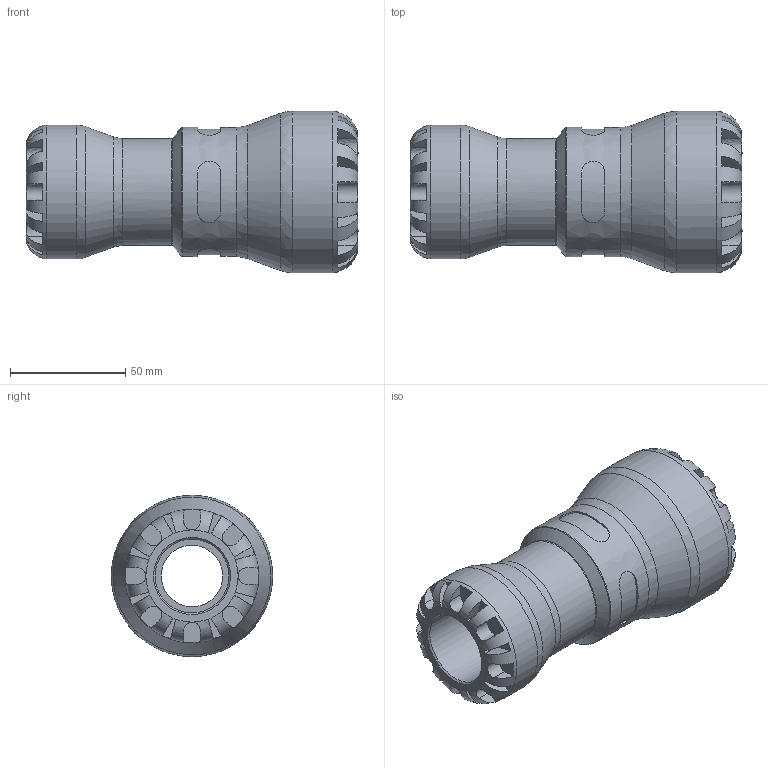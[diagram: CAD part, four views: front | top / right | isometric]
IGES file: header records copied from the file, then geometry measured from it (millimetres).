
Global section: file name: 151100040032; native system: Autodesk Inventor 2019; preprocessor: unknown; author: KIM; date: 20231017.194457; units: millimetre
Bounding box: 144 x 70 x 70 mm (x, y, z)
Volume: 223697 mm3; surface area: 50442.6 mm2
Topology: 1 solids, 1 shells, 172 faces, 465 edges, 300 vertices
Faces by surface type: bspline 172
